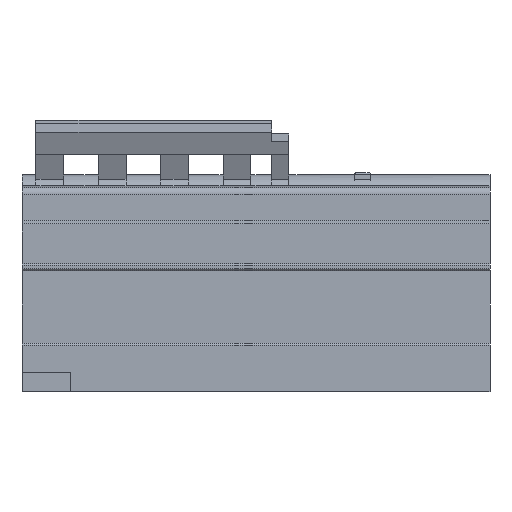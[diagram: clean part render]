
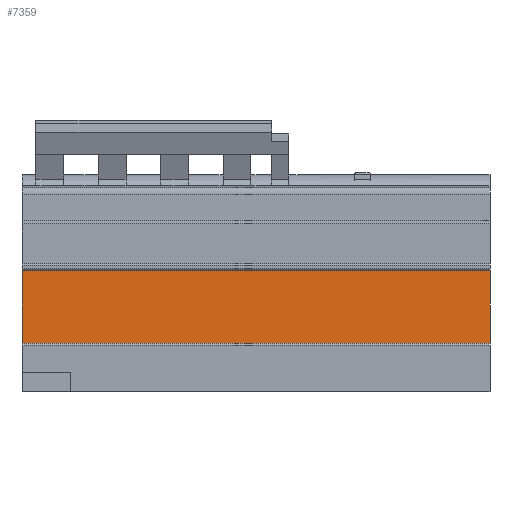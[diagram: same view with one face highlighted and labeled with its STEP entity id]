
A CAD part, front view. The second image highlights one B-rep face of the part: STEP entity #7359.
In plain terms, the highlighted planar face has unit normal (0, -1, 0).
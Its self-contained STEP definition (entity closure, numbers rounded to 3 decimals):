
#245=LINE('',#10598,#893);
#493=LINE('',#12284,#1141);
#565=LINE('',#12480,#1213);
#566=LINE('',#12482,#1214);
#893=VECTOR('',#8452,10.);
#1141=VECTOR('',#9218,10.);
#1213=VECTOR('',#9438,10.);
#1214=VECTOR('',#9441,10.);
#1684=PLANE('',#7974);
#2198=FACE_OUTER_BOUND('',#2712,.T.);
#2712=EDGE_LOOP('',(#6041,#6042,#6043,#6044));
#3238=VERTEX_POINT('',#10595);
#3239=VERTEX_POINT('',#10597);
#3555=VERTEX_POINT('',#12281);
#3556=VERTEX_POINT('',#12283);
#3951=EDGE_CURVE('',#3238,#3239,#245,.T.);
#4386=EDGE_CURVE('',#3556,#3555,#493,.T.);
#4484=EDGE_CURVE('',#3555,#3239,#565,.T.);
#4485=EDGE_CURVE('',#3556,#3238,#566,.T.);
#6041=ORIENTED_EDGE('',*,*,#4386,.T.);
#6042=ORIENTED_EDGE('',*,*,#4484,.T.);
#6043=ORIENTED_EDGE('',*,*,#3951,.F.);
#6044=ORIENTED_EDGE('',*,*,#4485,.F.);
#7359=ADVANCED_FACE('',(#2198),#1684,.T.);
#7974=AXIS2_PLACEMENT_3D('',#12481,#9439,#9440);
#8452=DIRECTION('',(0.,0.,-1.));
#9218=DIRECTION('',(0.,0.,-1.));
#9438=DIRECTION('',(1.,0.,0.));
#9439=DIRECTION('center_axis',(0.,-1.,0.));
#9440=DIRECTION('ref_axis',(0.,0.,-1.));
#9441=DIRECTION('',(1.,0.,0.));
#10595=CARTESIAN_POINT('',(135.,-9.653,-21.84));
#10597=CARTESIAN_POINT('',(135.,-9.653,-42.84));
#10598=CARTESIAN_POINT('',(135.,-9.653,-21.84));
#12281=CARTESIAN_POINT('',(0.,-9.653,-42.84));
#12283=CARTESIAN_POINT('',(0.,-9.653,-21.84));
#12284=CARTESIAN_POINT('',(0.,-9.653,-21.84));
#12480=CARTESIAN_POINT('',(0.,-9.653,-42.84));
#12481=CARTESIAN_POINT('Origin',(0.,-9.653,-21.84));
#12482=CARTESIAN_POINT('',(0.,-9.653,-21.84));
